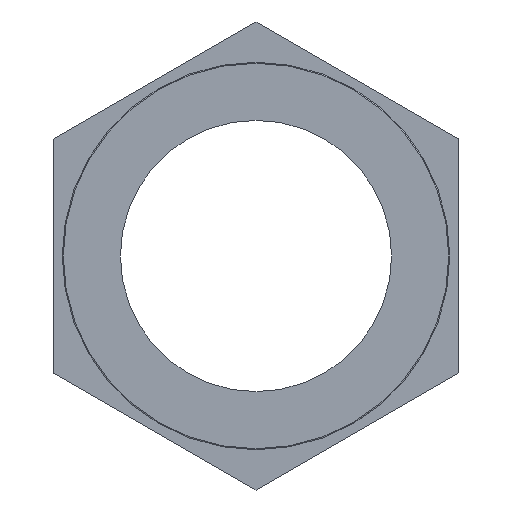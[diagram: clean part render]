
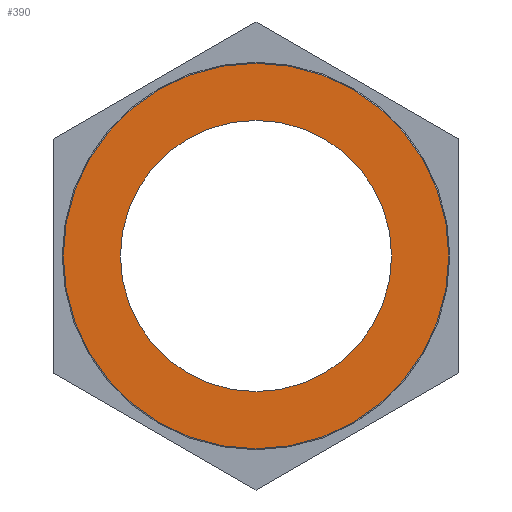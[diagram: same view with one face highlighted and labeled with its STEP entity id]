
A CAD part, left-side view. The second image highlights one B-rep face of the part: STEP entity #390.
In plain terms, the highlighted planar face has unit normal (-1, 0, 0).
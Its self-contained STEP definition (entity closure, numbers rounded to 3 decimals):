
#69=PLANE('',#425);
#94=FACE_BOUND('',#145,.T.);
#112=FACE_OUTER_BOUND('',#144,.T.);
#144=EDGE_LOOP('',(#297));
#145=EDGE_LOOP('',(#298));
#189=CIRCLE('',#422,23.782);
#191=CIRCLE('',#426,16.731);
#212=VERTEX_POINT('',#609);
#214=VERTEX_POINT('',#615);
#247=EDGE_CURVE('',#212,#212,#189,.T.);
#249=EDGE_CURVE('',#214,#214,#191,.T.);
#297=ORIENTED_EDGE('',*,*,#247,.F.);
#298=ORIENTED_EDGE('',*,*,#249,.F.);
#390=ADVANCED_FACE('',(#112,#94),#69,.T.);
#422=AXIS2_PLACEMENT_3D('',#610,#479,#480);
#425=AXIS2_PLACEMENT_3D('',#614,#485,#486);
#426=AXIS2_PLACEMENT_3D('',#616,#487,#488);
#479=DIRECTION('center_axis',(1.,0.,0.));
#480=DIRECTION('ref_axis',(0.,1.,0.));
#485=DIRECTION('center_axis',(-1.,0.,0.));
#486=DIRECTION('ref_axis',(0.,0.,1.));
#487=DIRECTION('center_axis',(-1.,0.,0.));
#488=DIRECTION('ref_axis',(0.,0.,1.));
#609=CARTESIAN_POINT('',(0.,-23.782,0.));
#610=CARTESIAN_POINT('Origin',(0.,0.,0.));
#614=CARTESIAN_POINT('Origin',(0.,-16.731,0.));
#615=CARTESIAN_POINT('',(0.,-16.731,0.));
#616=CARTESIAN_POINT('Origin',(0.,0.,0.));
